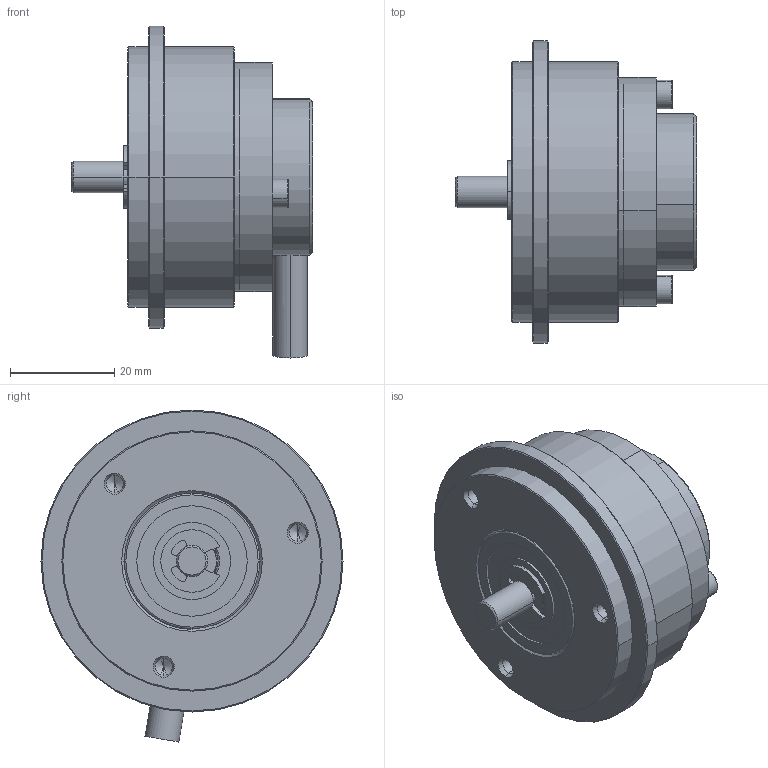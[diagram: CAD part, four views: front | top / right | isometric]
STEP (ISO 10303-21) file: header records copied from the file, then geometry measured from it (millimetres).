
FILE_DESCRIPTION (( 'STEP AP214' ), '1' );
FILE_NAME ('ËÈÐ-ÌÑ158À_èñï 3.STEP', '2017-05-23T08:29:50', ( '' ), ( '' ), 'SwSTEP 2.0', 'SolidWorks 2013', '' );
FILE_SCHEMA (( 'AUTOMOTIVE_DESIGN' ));
Length unit declared in the file: millimetre
Products named in the file (1): ËÈÐ-ÌÑ158À_èñï 3
Bounding box: 46.3 x 58 x 63.76 mm (x, y, z)
Volume: 48855.8 mm3; surface area: 33074.9 mm2
Topology: 23 solids, 23 shells, 1400 faces, 3854 edges, 2455 vertices
Faces by surface type: cone 513, cylinder 421, sphere 176, plane 171, torus 108, bspline 11
Entity records: 70350 total; most frequent: CARTESIAN_POINT 18757, DIRECTION 7888, ORIENTED_EDGE 7660, EDGE_CURVE 3830, AXIS2_PLACEMENT_3D 3418, VERTEX_POINT 2455, CIRCLE 2028, EDGE_LOOP 1515
